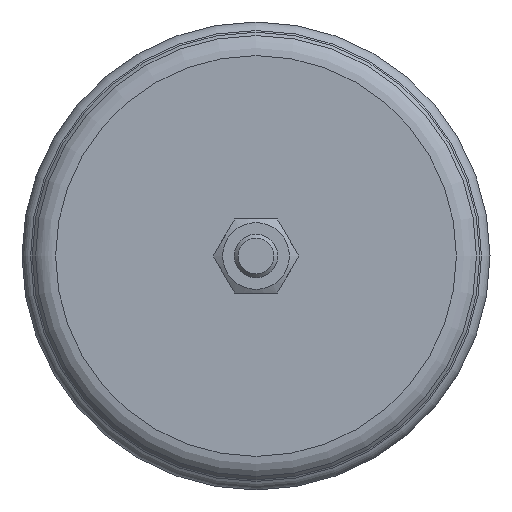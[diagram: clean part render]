
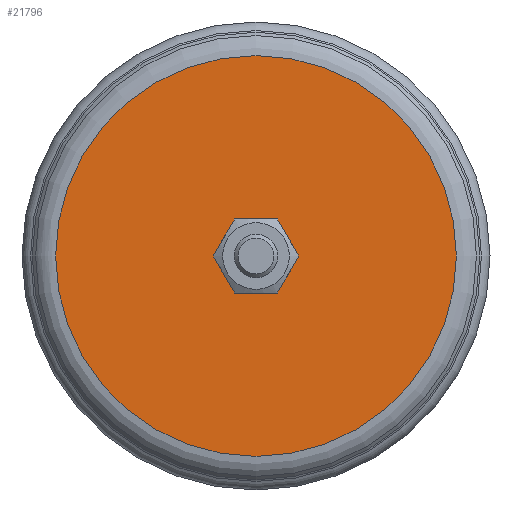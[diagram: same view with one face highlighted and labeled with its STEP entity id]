
A CAD part, front view. The second image highlights one B-rep face of the part: STEP entity #21796.
In plain terms, the highlighted planar face has unit normal (0, -1, 0).
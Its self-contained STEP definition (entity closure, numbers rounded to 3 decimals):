
#1414=FACE_BOUND('',#3433,.T.);
#1704=CIRCLE('',#23115,46.035);
#1705=CIRCLE('',#23116,3.979);
#2151=FACE_OUTER_BOUND('',#3432,.T.);
#3432=EDGE_LOOP('',(#14318));
#3433=EDGE_LOOP('',(#14319));
#8551=VERTEX_POINT('',#29944);
#8552=VERTEX_POINT('',#29946);
#10861=EDGE_CURVE('',#8551,#8551,#1704,.T.);
#10862=EDGE_CURVE('',#8552,#8552,#1705,.T.);
#14318=ORIENTED_EDGE('',*,*,#10861,.T.);
#14319=ORIENTED_EDGE('',*,*,#10862,.T.);
#21103=PLANE('',#23114);
#21796=ADVANCED_FACE('',(#2151,#1414),#21103,.T.);
#23114=AXIS2_PLACEMENT_3D('',#29943,#24901,#24902);
#23115=AXIS2_PLACEMENT_3D('',#29945,#24903,#24904);
#23116=AXIS2_PLACEMENT_3D('',#29947,#24905,#24906);
#24901=DIRECTION('center_axis',(0.,-1.,0.));
#24902=DIRECTION('ref_axis',(0.,0.,-1.));
#24903=DIRECTION('center_axis',(0.,-1.,0.));
#24904=DIRECTION('ref_axis',(-1.,0.,0.));
#24905=DIRECTION('center_axis',(0.,1.,0.));
#24906=DIRECTION('ref_axis',(1.,0.,0.));
#29943=CARTESIAN_POINT('Origin',(-23.021,-268.741,0.));
#29944=CARTESIAN_POINT('',(-46.038,-268.741,0.));
#29945=CARTESIAN_POINT('Origin',(-0.003,-268.741,
0.));
#29946=CARTESIAN_POINT('',(-3.982,-268.741,0.));
#29947=CARTESIAN_POINT('Origin',(-0.003,-268.741,0.));
